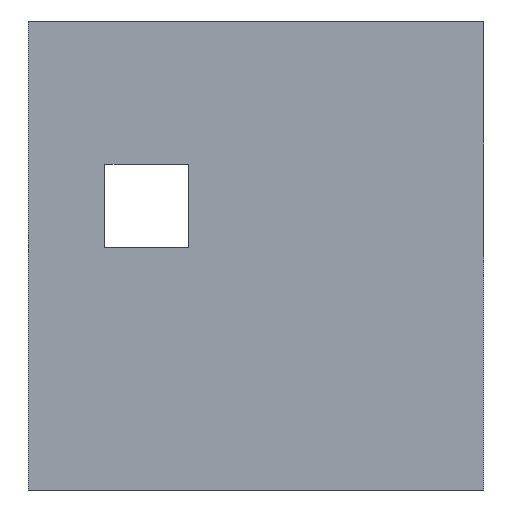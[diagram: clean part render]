
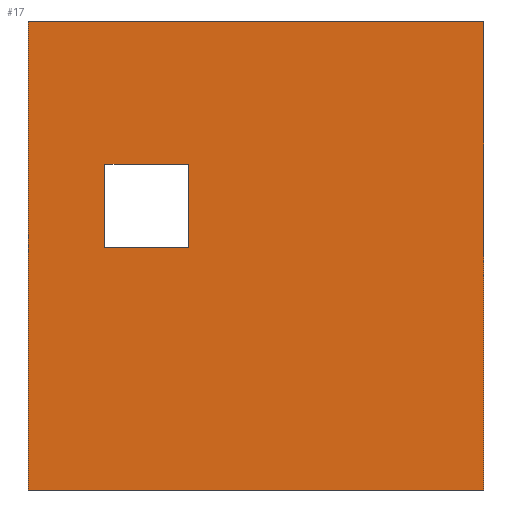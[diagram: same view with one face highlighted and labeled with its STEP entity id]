
A CAD part, left-side view. The second image highlights one B-rep face of the part: STEP entity #17.
In plain terms, the highlighted planar face has unit normal (-1, 0, 0).
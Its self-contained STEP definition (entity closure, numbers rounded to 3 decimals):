
#17 = ADVANCED_FACE('f000',(#18,#137),#32,.F.);
#18 = FACE_BOUND('',#19,.F.);
#19 = EDGE_LOOP('',(#20,#55,#83,#111));
#20 = ORIENTED_EDGE('',*,*,#21,.F.);
#21 = EDGE_CURVE('',#22,#24,#26,.T.);
#22 = VERTEX_POINT('',#23);
#23 = CARTESIAN_POINT('',(0.,0.,0.));
#24 = VERTEX_POINT('',#25);
#25 = CARTESIAN_POINT('',(0.,0.,11.186));
#26 = SURFACE_CURVE('',#27,(#31,#43),.PCURVE_S1.);
#27 = LINE('',#28,#29);
#28 = CARTESIAN_POINT('',(0.,0.,0.));
#29 = VECTOR('',#30,1.);
#30 = DIRECTION('',(0.,0.,1.));
#31 = PCURVE('',#32,#37);
#32 = PLANE('',#33);
#33 = AXIS2_PLACEMENT_3D('',#34,#35,#36);
#34 = CARTESIAN_POINT('',(0.,0.,0.));
#35 = DIRECTION('',(1.,0.,-0.));
#36 = DIRECTION('',(0.,0.,1.));
#37 = DEFINITIONAL_REPRESENTATION('',(#38),#42);
#38 = LINE('',#39,#40);
#39 = CARTESIAN_POINT('',(0.,0.));
#40 = VECTOR('',#41,1.);
#41 = DIRECTION('',(1.,0.));
#42 = ( GEOMETRIC_REPRESENTATION_CONTEXT(2) 
PARAMETRIC_REPRESENTATION_CONTEXT() REPRESENTATION_CONTEXT('2D SPACE',''
  ) );
#43 = PCURVE('',#44,#49);
#44 = PLANE('',#45);
#45 = AXIS2_PLACEMENT_3D('',#46,#47,#48);
#46 = CARTESIAN_POINT('',(0.,0.,0.));
#47 = DIRECTION('',(-0.,1.,0.));
#48 = DIRECTION('',(0.,0.,1.));
#49 = DEFINITIONAL_REPRESENTATION('',(#50),#54);
#50 = LINE('',#51,#52);
#51 = CARTESIAN_POINT('',(0.,0.));
#52 = VECTOR('',#53,1.);
#53 = DIRECTION('',(1.,0.));
#54 = ( GEOMETRIC_REPRESENTATION_CONTEXT(2) 
PARAMETRIC_REPRESENTATION_CONTEXT() REPRESENTATION_CONTEXT('2D SPACE',''
  ) );
#55 = ORIENTED_EDGE('',*,*,#56,.T.);
#56 = EDGE_CURVE('',#22,#57,#59,.T.);
#57 = VERTEX_POINT('',#58);
#58 = CARTESIAN_POINT('',(0.,10.882,0.));
#59 = SURFACE_CURVE('',#60,(#64,#71),.PCURVE_S1.);
#60 = LINE('',#61,#62);
#61 = CARTESIAN_POINT('',(0.,0.,0.));
#62 = VECTOR('',#63,1.);
#63 = DIRECTION('',(-0.,1.,0.));
#64 = PCURVE('',#32,#65);
#65 = DEFINITIONAL_REPRESENTATION('',(#66),#70);
#66 = LINE('',#67,#68);
#67 = CARTESIAN_POINT('',(0.,0.));
#68 = VECTOR('',#69,1.);
#69 = DIRECTION('',(0.,-1.));
#70 = ( GEOMETRIC_REPRESENTATION_CONTEXT(2) 
PARAMETRIC_REPRESENTATION_CONTEXT() REPRESENTATION_CONTEXT('2D SPACE',''
  ) );
#71 = PCURVE('',#72,#77);
#72 = PLANE('',#73);
#73 = AXIS2_PLACEMENT_3D('',#74,#75,#76);
#74 = CARTESIAN_POINT('',(0.,0.,0.));
#75 = DIRECTION('',(0.,0.,1.));
#76 = DIRECTION('',(1.,0.,-0.));
#77 = DEFINITIONAL_REPRESENTATION('',(#78),#82);
#78 = LINE('',#79,#80);
#79 = CARTESIAN_POINT('',(0.,0.));
#80 = VECTOR('',#81,1.);
#81 = DIRECTION('',(0.,1.));
#82 = ( GEOMETRIC_REPRESENTATION_CONTEXT(2) 
PARAMETRIC_REPRESENTATION_CONTEXT() REPRESENTATION_CONTEXT('2D SPACE',''
  ) );
#83 = ORIENTED_EDGE('',*,*,#84,.T.);
#84 = EDGE_CURVE('',#57,#85,#87,.T.);
#85 = VERTEX_POINT('',#86);
#86 = CARTESIAN_POINT('',(0.,10.882,11.186));
#87 = SURFACE_CURVE('',#88,(#92,#99),.PCURVE_S1.);
#88 = LINE('',#89,#90);
#89 = CARTESIAN_POINT('',(0.,10.882,0.));
#90 = VECTOR('',#91,1.);
#91 = DIRECTION('',(0.,0.,1.));
#92 = PCURVE('',#32,#93);
#93 = DEFINITIONAL_REPRESENTATION('',(#94),#98);
#94 = LINE('',#95,#96);
#95 = CARTESIAN_POINT('',(0.,-10.882));
#96 = VECTOR('',#97,1.);
#97 = DIRECTION('',(1.,0.));
#98 = ( GEOMETRIC_REPRESENTATION_CONTEXT(2) 
PARAMETRIC_REPRESENTATION_CONTEXT() REPRESENTATION_CONTEXT('2D SPACE',''
  ) );
#99 = PCURVE('',#100,#105);
#100 = PLANE('',#101);
#101 = AXIS2_PLACEMENT_3D('',#102,#103,#104);
#102 = CARTESIAN_POINT('',(0.,10.882,0.));
#103 = DIRECTION('',(-0.,1.,0.));
#104 = DIRECTION('',(0.,0.,1.));
#105 = DEFINITIONAL_REPRESENTATION('',(#106),#110);
#106 = LINE('',#107,#108);
#107 = CARTESIAN_POINT('',(0.,0.));
#108 = VECTOR('',#109,1.);
#109 = DIRECTION('',(1.,0.));
#110 = ( GEOMETRIC_REPRESENTATION_CONTEXT(2) 
PARAMETRIC_REPRESENTATION_CONTEXT() REPRESENTATION_CONTEXT('2D SPACE',''
  ) );
#111 = ORIENTED_EDGE('',*,*,#112,.F.);
#112 = EDGE_CURVE('',#24,#85,#113,.T.);
#113 = SURFACE_CURVE('',#114,(#118,#125),.PCURVE_S1.);
#114 = LINE('',#115,#116);
#115 = CARTESIAN_POINT('',(0.,0.,11.186));
#116 = VECTOR('',#117,1.);
#117 = DIRECTION('',(-0.,1.,0.));
#118 = PCURVE('',#32,#119);
#119 = DEFINITIONAL_REPRESENTATION('',(#120),#124);
#120 = LINE('',#121,#122);
#121 = CARTESIAN_POINT('',(11.186,0.));
#122 = VECTOR('',#123,1.);
#123 = DIRECTION('',(0.,-1.));
#124 = ( GEOMETRIC_REPRESENTATION_CONTEXT(2) 
PARAMETRIC_REPRESENTATION_CONTEXT() REPRESENTATION_CONTEXT('2D SPACE',''
  ) );
#125 = PCURVE('',#126,#131);
#126 = PLANE('',#127);
#127 = AXIS2_PLACEMENT_3D('',#128,#129,#130);
#128 = CARTESIAN_POINT('',(0.,0.,11.186));
#129 = DIRECTION('',(0.,0.,1.));
#130 = DIRECTION('',(1.,0.,-0.));
#131 = DEFINITIONAL_REPRESENTATION('',(#132),#136);
#132 = LINE('',#133,#134);
#133 = CARTESIAN_POINT('',(0.,0.));
#134 = VECTOR('',#135,1.);
#135 = DIRECTION('',(0.,1.));
#136 = ( GEOMETRIC_REPRESENTATION_CONTEXT(2) 
PARAMETRIC_REPRESENTATION_CONTEXT() REPRESENTATION_CONTEXT('2D SPACE',''
  ) );
#137 = FACE_BOUND('',#138,.F.);
#138 = EDGE_LOOP('',(#139,#169,#197,#225));
#139 = ORIENTED_EDGE('',*,*,#140,.F.);
#140 = EDGE_CURVE('',#141,#143,#145,.T.);
#141 = VERTEX_POINT('',#142);
#142 = CARTESIAN_POINT('',(0.,9.052,5.792));
#143 = VERTEX_POINT('',#144);
#144 = CARTESIAN_POINT('',(0.,9.052,7.792));
#145 = SURFACE_CURVE('',#146,(#150,#157),.PCURVE_S1.);
#146 = LINE('',#147,#148);
#147 = CARTESIAN_POINT('',(0.,9.052,5.792));
#148 = VECTOR('',#149,1.);
#149 = DIRECTION('',(0.,0.,1.));
#150 = PCURVE('',#32,#151);
#151 = DEFINITIONAL_REPRESENTATION('',(#152),#156);
#152 = LINE('',#153,#154);
#153 = CARTESIAN_POINT('',(5.792,-9.052));
#154 = VECTOR('',#155,1.);
#155 = DIRECTION('',(1.,0.));
#156 = ( GEOMETRIC_REPRESENTATION_CONTEXT(2) 
PARAMETRIC_REPRESENTATION_CONTEXT() REPRESENTATION_CONTEXT('2D SPACE',''
  ) );
#157 = PCURVE('',#158,#163);
#158 = PLANE('',#159);
#159 = AXIS2_PLACEMENT_3D('',#160,#161,#162);
#160 = CARTESIAN_POINT('',(34.67,9.052,5.792
    ));
#161 = DIRECTION('',(-0.,1.,0.));
#162 = DIRECTION('',(0.,0.,1.));
#163 = DEFINITIONAL_REPRESENTATION('',(#164),#168);
#164 = LINE('',#165,#166);
#165 = CARTESIAN_POINT('',(0.,-34.67));
#166 = VECTOR('',#167,1.);
#167 = DIRECTION('',(1.,0.));
#168 = ( GEOMETRIC_REPRESENTATION_CONTEXT(2) 
PARAMETRIC_REPRESENTATION_CONTEXT() REPRESENTATION_CONTEXT('2D SPACE',''
  ) );
#169 = ORIENTED_EDGE('',*,*,#170,.F.);
#170 = EDGE_CURVE('',#171,#141,#173,.T.);
#171 = VERTEX_POINT('',#172);
#172 = CARTESIAN_POINT('',(0.,7.052,5.792));
#173 = SURFACE_CURVE('',#174,(#178,#185),.PCURVE_S1.);
#174 = LINE('',#175,#176);
#175 = CARTESIAN_POINT('',(0.,7.052,5.792));
#176 = VECTOR('',#177,1.);
#177 = DIRECTION('',(0.,1.,0.));
#178 = PCURVE('',#32,#179);
#179 = DEFINITIONAL_REPRESENTATION('',(#180),#184);
#180 = LINE('',#181,#182);
#181 = CARTESIAN_POINT('',(5.792,-7.052));
#182 = VECTOR('',#183,1.);
#183 = DIRECTION('',(0.,-1.));
#184 = ( GEOMETRIC_REPRESENTATION_CONTEXT(2) 
PARAMETRIC_REPRESENTATION_CONTEXT() REPRESENTATION_CONTEXT('2D SPACE',''
  ) );
#185 = PCURVE('',#186,#191);
#186 = PLANE('',#187);
#187 = AXIS2_PLACEMENT_3D('',#188,#189,#190);
#188 = CARTESIAN_POINT('',(34.67,7.052,5.792
    ));
#189 = DIRECTION('',(-0.,0.,-1.));
#190 = DIRECTION('',(0.,1.,0.));
#191 = DEFINITIONAL_REPRESENTATION('',(#192),#196);
#192 = LINE('',#193,#194);
#193 = CARTESIAN_POINT('',(0.,-34.67));
#194 = VECTOR('',#195,1.);
#195 = DIRECTION('',(1.,0.));
#196 = ( GEOMETRIC_REPRESENTATION_CONTEXT(2) 
PARAMETRIC_REPRESENTATION_CONTEXT() REPRESENTATION_CONTEXT('2D SPACE',''
  ) );
#197 = ORIENTED_EDGE('',*,*,#198,.F.);
#198 = EDGE_CURVE('',#199,#171,#201,.T.);
#199 = VERTEX_POINT('',#200);
#200 = CARTESIAN_POINT('',(0.,7.052,7.792));
#201 = SURFACE_CURVE('',#202,(#206,#213),.PCURVE_S1.);
#202 = LINE('',#203,#204);
#203 = CARTESIAN_POINT('',(0.,7.052,7.792));
#204 = VECTOR('',#205,1.);
#205 = DIRECTION('',(0.,0.,-1.));
#206 = PCURVE('',#32,#207);
#207 = DEFINITIONAL_REPRESENTATION('',(#208),#212);
#208 = LINE('',#209,#210);
#209 = CARTESIAN_POINT('',(7.792,-7.052));
#210 = VECTOR('',#211,1.);
#211 = DIRECTION('',(-1.,0.));
#212 = ( GEOMETRIC_REPRESENTATION_CONTEXT(2) 
PARAMETRIC_REPRESENTATION_CONTEXT() REPRESENTATION_CONTEXT('2D SPACE',''
  ) );
#213 = PCURVE('',#214,#219);
#214 = PLANE('',#215);
#215 = AXIS2_PLACEMENT_3D('',#216,#217,#218);
#216 = CARTESIAN_POINT('',(34.67,7.052,7.792
    ));
#217 = DIRECTION('',(0.,-1.,0.));
#218 = DIRECTION('',(0.,0.,-1.));
#219 = DEFINITIONAL_REPRESENTATION('',(#220),#224);
#220 = LINE('',#221,#222);
#221 = CARTESIAN_POINT('',(0.,-34.67));
#222 = VECTOR('',#223,1.);
#223 = DIRECTION('',(1.,0.));
#224 = ( GEOMETRIC_REPRESENTATION_CONTEXT(2) 
PARAMETRIC_REPRESENTATION_CONTEXT() REPRESENTATION_CONTEXT('2D SPACE',''
  ) );
#225 = ORIENTED_EDGE('',*,*,#226,.F.);
#226 = EDGE_CURVE('',#143,#199,#227,.T.);
#227 = SURFACE_CURVE('',#228,(#232,#239),.PCURVE_S1.);
#228 = LINE('',#229,#230);
#229 = CARTESIAN_POINT('',(0.,9.052,7.792));
#230 = VECTOR('',#231,1.);
#231 = DIRECTION('',(0.,-1.,0.));
#232 = PCURVE('',#32,#233);
#233 = DEFINITIONAL_REPRESENTATION('',(#234),#238);
#234 = LINE('',#235,#236);
#235 = CARTESIAN_POINT('',(7.792,-9.052));
#236 = VECTOR('',#237,1.);
#237 = DIRECTION('',(0.,1.));
#238 = ( GEOMETRIC_REPRESENTATION_CONTEXT(2) 
PARAMETRIC_REPRESENTATION_CONTEXT() REPRESENTATION_CONTEXT('2D SPACE',''
  ) );
#239 = PCURVE('',#240,#245);
#240 = PLANE('',#241);
#241 = AXIS2_PLACEMENT_3D('',#242,#243,#244);
#242 = CARTESIAN_POINT('',(34.67,9.052,7.792
    ));
#243 = DIRECTION('',(0.,0.,1.));
#244 = DIRECTION('',(0.,-1.,0.));
#245 = DEFINITIONAL_REPRESENTATION('',(#246),#250);
#246 = LINE('',#247,#248);
#247 = CARTESIAN_POINT('',(0.,-34.67));
#248 = VECTOR('',#249,1.);
#249 = DIRECTION('',(1.,0.));
#250 = ( GEOMETRIC_REPRESENTATION_CONTEXT(2) 
PARAMETRIC_REPRESENTATION_CONTEXT() REPRESENTATION_CONTEXT('2D SPACE',''
  ) );
